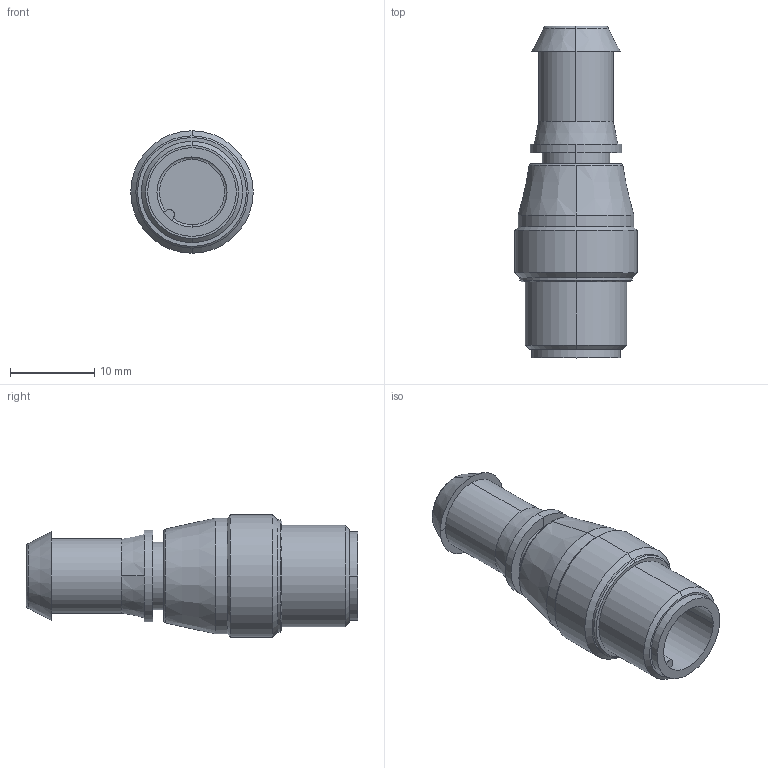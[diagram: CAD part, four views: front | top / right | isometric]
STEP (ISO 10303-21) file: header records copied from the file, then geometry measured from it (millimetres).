
FILE_DESCRIPTION (( 'STEP AP203' ), '1' );
FILE_NAME ('MFGD0002.step', '2013-07-15T15:03:44', ( 'Turck User' ), ( '' ), 'SwSTEP 2.0', 'SolidWorks 2013', '' );
FILE_SCHEMA (( 'CONFIG_CONTROL_DESIGN' ));
Length unit declared in the file: millimetre
Products named in the file (1): MFGD0002
Bounding box: 14.5 x 39.3 x 14.5 mm (x, y, z)
Volume: 3470.1 mm3; surface area: 2199.2 mm2
Topology: 1 solids, 1 shells, 282 faces, 803 edges, 526 vertices
Faces by surface type: cylinder 169, plane 57, cone 49, torus 4, bspline 3
Entity records: 11398 total; most frequent: CARTESIAN_POINT 4321, ORIENTED_EDGE 1602, DIRECTION 1299, EDGE_CURVE 801, VERTEX_POINT 526, AXIS2_PLACEMENT_3D 467, VECTOR 365, LINE 365
